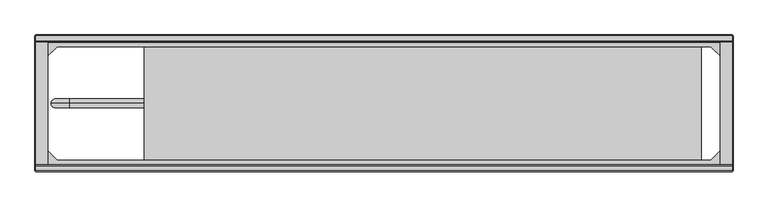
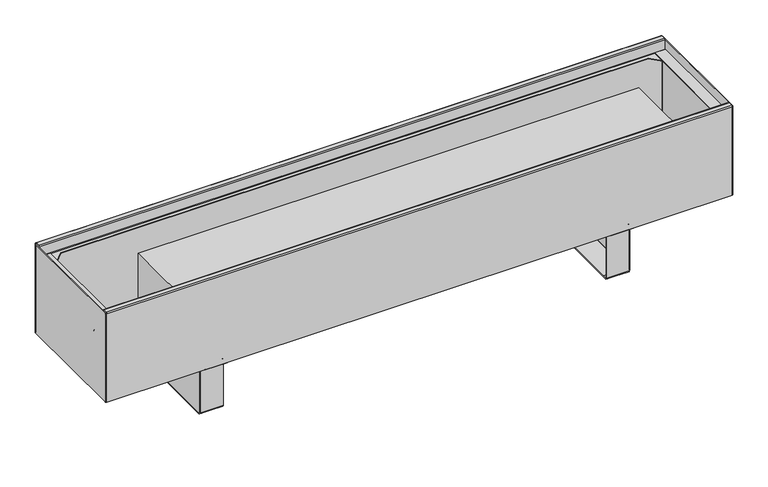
"""IFC4 building model written with IfcOpenShell, lengths in millimetres: proxy geometry, TECHNO_Конвектор напольный_Vita KPZ 235 : KPZ 235-180."""

from ifc_helpers import new_model, si_unit, point, frame, origin, place, context, project, spatial, polyline, circle_curve, ellipse_curve, trimmed, outline, extrude, source, transform, mapped, element, save
from ifc_brep_helpers import plane_surface, cylinder_surface, revolved_surface, advanced_brep


def mechanical_equipment_8d609455(model_context):
    return source(origin(), model_context, "Body", "SolidModel", [
        advanced_brep(
        [(409.7, -116.8, 1.5), (409.7, -114.5, 3.8), (409.7, -114.5, 4.9), (409.7, -116.0, 4.9), (409.7, -116.0, 3.8), (409.7, -116.8, 3.0), (409.7, -124.5, 3.0), (409.7, -124.5, 1.5), (409.7, -117.6, 1.5), (409.7, -114.5, 97.7), (409.7, -113.7, 98.5), (409.7, -101.0, 98.5), (409.7, -101.0, 100.0), (409.7, -113.7, 100.0), (409.7, -116.0, 97.7), (409.7, -116.0, 95.5), (409.7, -114.5, 95.5), (409.7, -320.5, 3.8), (409.7, -318.2, 1.5), (409.7, -317.4, 1.5), (409.7, -310.5, 1.5), (409.7, -310.5, 3.0), (409.7, -318.2, 3.0), (409.7, -319.0, 3.8), (409.7, -319.0, 4.9), (409.7, -320.5, 4.9), (409.7, -319.0, 97.7), (409.7, -321.3, 100.0), (409.7, -334.0, 100.0), (409.7, -334.0, 98.5), (409.7, -321.3, 98.5), (409.7, -320.5, 97.7), (409.7, -320.5, 95.5), (409.7, -319.0, 95.5), (367.0, -320.5, 97.7), (367.0, -321.3, 98.5), (367.0, -334.0, 98.5), (367.0, -334.0, 100.0), (367.0, -321.3, 100.0), (367.0, -319.0, 97.7), (367.0, -319.0, 3.8), (367.0, -318.2, 3.0), (367.0, -310.5, 3.0), (367.0, -310.5, 1.5), (367.0, -124.5, 1.5), (367.0, -124.5, 3.0), (367.0, -116.8, 3.0), (367.0, -116.0, 3.8), (367.0, -116.0, 97.7), (367.0, -113.7, 100.0), (367.0, -101.0, 100.0), (367.0, -101.0, 98.5), (367.0, -113.7, 98.5), (367.0, -114.5, 97.7), (367.0, -114.5, 3.8), (367.0, -116.8, 1.5), (367.0, -117.6, 1.5), (367.0, -117.6, 0.0), (367.0, -317.4, 0.0), (367.0, -317.4, 1.5), (367.0, -318.2, 1.5), (367.0, -320.5, 3.8), (410.5, -116.8, 95.5), (410.5, -318.2, 95.5), (412.0, -318.2, 95.5), (412.0, -116.8, 95.5), (412.0, -116.8, 4.9), (412.0, -117.6, 4.9), (410.5, -117.6, 4.9), (410.5, -116.8, 4.9), (410.5, -318.2, 4.9), (410.5, -317.4, 4.9), (412.0, -317.4, 4.9), (412.0, -318.2, 4.9), (410.5, -117.6, 2.3), (410.5, -317.4, 2.3), (411.9999999, -317.4, 2.3), (412.0, -117.6, 2.3), (409.7, -117.6, 0.0), (409.7, -317.4, 0.0)],
        [
            (0, 1, circle_curve(frame((409.7, -116.8, 3.8), z_axis=(1.0, 0.0, 0.0), x_axis=(0.0, -1.0, 0.0)), 2.3)),
            (1, 2),
            (2, 3),
            (3, 4),
            (4, 5, circle_curve(frame((409.7, -116.8, 3.8), z_axis=(-1.0, 0.0, 0.0), x_axis=(0.0, -1.0, 0.0)), 0.8)),
            (5, 6),
            (6, 7),
            (7, 8),
            (8, 0),
            (9, 10, circle_curve(frame((409.7, -113.7, 97.7), z_axis=(-1.0, 0.0, 0.0), x_axis=(0.0, -1.0, 0.0)), 0.8)),
            (10, 11),
            (11, 12),
            (12, 13),
            (13, 14, circle_curve(frame((409.7, -113.7, 97.7), z_axis=(1.0, 0.0, 0.0), x_axis=(0.0, -1.0, 0.0)), 2.3)),
            (14, 15),
            (15, 16),
            (16, 9),
            (17, 18, circle_curve(frame((409.7, -318.2, 3.8), z_axis=(1.0, 0.0, 0.0), x_axis=(0.0, -1.0, 0.0)), 2.3)),
            (18, 19),
            (19, 20),
            (20, 21),
            (21, 22),
            (22, 23, circle_curve(frame((409.7, -318.2, 3.8), z_axis=(-1.0, 0.0, 0.0), x_axis=(0.0, -1.0, 0.0)), 0.8)),
            (23, 24),
            (24, 25),
            (25, 17),
            (26, 27, circle_curve(frame((409.7, -321.3, 97.7), z_axis=(1.0, 0.0, 0.0), x_axis=(0.0, -1.0, 0.0)), 2.3)),
            (27, 28),
            (28, 29),
            (29, 30),
            (30, 31, circle_curve(frame((409.7, -321.3, 97.7), z_axis=(-1.0, 0.0, 0.0), x_axis=(0.0, -1.0, 0.0)), 0.8)),
            (31, 32),
            (32, 33),
            (33, 26),
            (34, 35, circle_curve(frame((367.0, -321.3, 97.7), z_axis=(1.0, 0.0, 0.0), x_axis=(0.0, -1.0, 0.0)), 0.8)),
            (35, 36),
            (36, 37),
            (37, 38),
            (38, 39, circle_curve(frame((367.0, -321.3, 97.7), z_axis=(-1.0, 0.0, 0.0), x_axis=(0.0, -1.0, 0.0)), 2.3)),
            (39, 40),
            (40, 41, circle_curve(frame((367.0, -318.2, 3.8), z_axis=(1.0, 0.0, 0.0), x_axis=(0.0, -1.0, 0.0)), 0.8)),
            (41, 42),
            (42, 43),
            (43, 44),
            (44, 45),
            (45, 46),
            (46, 47, circle_curve(frame((367.0, -116.8, 3.8), z_axis=(1.0, 0.0, 0.0), x_axis=(0.0, -1.0, 0.0)), 0.8)),
            (47, 48),
            (48, 49, circle_curve(frame((367.0, -113.7, 97.7), z_axis=(-1.0, 0.0, 0.0), x_axis=(0.0, -1.0, 0.0)), 2.3)),
            (49, 50),
            (50, 51),
            (51, 52),
            (52, 53, circle_curve(frame((367.0, -113.7, 97.7), z_axis=(1.0, 0.0, 0.0), x_axis=(0.0, -1.0, 0.0)), 0.8)),
            (53, 54),
            (54, 55, circle_curve(frame((367.0, -116.8, 3.8), z_axis=(-1.0, 0.0, 0.0), x_axis=(0.0, -1.0, 0.0)), 2.3)),
            (55, 56),
            (56, 57),
            (57, 58),
            (58, 59),
            (59, 60),
            (60, 61, circle_curve(frame((367.0, -318.2, 3.8), z_axis=(-1.0, 0.0, 0.0), x_axis=(0.0, -1.0, 0.0)), 2.3)),
            (61, 34),
            (30, 35),
            (34, 31),
            (29, 36),
            (28, 37),
            (27, 38),
            (26, 39),
            (33, 24),
            (23, 40),
            (22, 41),
            (5, 46),
            (45, 6),
            (4, 47),
            (3, 15),
            (14, 48),
            (13, 49),
            (12, 50),
            (11, 51),
            (10, 52),
            (9, 53),
            (16, 2),
            (1, 54),
            (0, 55),
            (8, 56),
            (17, 61),
            (60, 18),
            (25, 32),
            (21, 42),
            (20, 43),
            (59, 19),
            (44, 7),
            (15, 62, circle_curve(frame((409.7, -116.8, 95.5), z_axis=(0.0, 0.0, -1.0), x_axis=(-1.0, 0.0, 0.0)), 0.8)),
            (62, 63),
            (63, 33, circle_curve(frame((409.7, -318.2, 95.5), z_axis=(0.0, 0.0, -1.0), x_axis=(-1.0, 0.0, 0.0)), 0.8)),
            (32, 64, circle_curve(frame((409.7, -318.2, 95.5), z_axis=(0.0, 0.0, 1.0), x_axis=(-1.0, 0.0, 0.0)), 2.3)),
            (64, 65),
            (65, 16, circle_curve(frame((409.7, -116.8, 95.5), z_axis=(0.0, 0.0, 1.0), x_axis=(-1.0, 0.0, 0.0)), 2.3)),
            (2, 66, circle_curve(frame((409.7, -116.8, 4.9), z_axis=(0.0, 0.0, -1.0), x_axis=(-1.0, 0.0, 0.0)), 2.3)),
            (66, 67),
            (67, 68),
            (68, 69),
            (69, 3, circle_curve(frame((409.7, -116.8, 4.9), z_axis=(0.0, 0.0, 1.0), x_axis=(-1.0, 0.0, 0.0)), 0.8)),
            (24, 70, circle_curve(frame((409.7, -318.2, 4.9), z_axis=(0.0, 0.0, 1.0), x_axis=(-1.0, 0.0, 0.0)), 0.8)),
            (70, 71),
            (71, 72),
            (72, 73),
            (73, 25, circle_curve(frame((409.7, -318.2, 4.9), z_axis=(0.0, 0.0, -1.0), x_axis=(-1.0, 0.0, 0.0)), 2.3)),
            (69, 62),
            (68, 74),
            (74, 75),
            (75, 71),
            (70, 63),
            (64, 73),
            (72, 76),
            (76, 77),
            (77, 67),
            (66, 65),
            (8, 74, circle_curve(frame((409.7, -117.6, 2.3), z_axis=(0.0, -1.0, 0.0), x_axis=(-1.0, 0.0, 0.0)), 0.8)),
            (77, 78, circle_curve(frame((409.7, -117.6, 2.3), z_axis=(0.0, 1.0, 0.0), x_axis=(-1.0, 0.0, 0.0)), 2.3)),
            (78, 57),
            (58, 79),
            (79, 76, circle_curve(frame((409.7, -317.4, 2.3), z_axis=(0.0, -1.0, 0.0), x_axis=(-1.0, 0.0, 0.0)), 2.3)),
            (75, 19, circle_curve(frame((409.7, -317.4, 2.3), z_axis=(0.0, 1.0, 0.0), x_axis=(-1.0, 0.0, 0.0)), 0.8)),
            (20, 7),
            (79, 78),
        ],
        [
            plane_surface(frame((409.7, -322.1, 97.7), z_axis=(1.0, 0.0, 0.0), x_axis=(0.0, 0.0, 1.0))),
            plane_surface(frame((367.0, -322.1, 97.7), z_axis=(-1.0, 0.0, 0.0), x_axis=(0.0, 0.0, -1.0))),
            revolved_surface(polyline([(409.7, -322.1, 97.7), (367.0, -322.1, 97.7)]), (409.7, -321.3, 97.7), (1.0, 0.0, 0.0)),
            plane_surface(frame((367.0, -321.3, 98.5), z_axis=(0.0, 0.0, -1.0), x_axis=(1.0, 0.0, 0.0))),
            plane_surface(frame((367.0, -334.0, 98.5), z_axis=(0.0, -1.0, 0.0), x_axis=(1.0, 0.0, 0.0))),
            plane_surface(frame((367.0, -334.0, 100.0), z_axis=(0.0, 0.0, 1.0), x_axis=(1.0, 0.0, 0.0))),
            cylinder_surface(frame((409.7, -321.3, 97.7), z_axis=(-1.0, 0.0, 0.0), x_axis=(0.0, -1.0, 0.0)), 2.3),
            plane_surface(frame((367.0, -319.0, 97.7), z_axis=(0.0, 1.0, 3.691903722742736e-12), x_axis=(1.0, 0.0, 0.0))),
            revolved_surface(polyline([(409.7, -319.0, 3.8), (367.0, -319.0, 3.8)]), (409.7, -318.2, 3.8), (1.0, 0.0, 0.0)),
            plane_surface(frame((367.0, -124.5, 3.0), z_axis=(0.0, 0.0, 1.0), x_axis=(1.0, 0.0, 0.0))),
            revolved_surface(polyline([(409.7, -117.6, 3.8), (367.0, -117.6, 3.8)]), (412.0, -116.8, 3.8), (1.0, 0.0, 0.0)),
            plane_surface(frame((367.0, -116.0, 3.8), z_axis=(0.0, -1.0, 0.0), x_axis=(1.0, 0.0, 0.0))),
            cylinder_surface(frame((412.0, -113.7, 97.7), z_axis=(-1.0, 0.0, 0.0), x_axis=(0.0, -1.0, 0.0)), 2.3),
            plane_surface(frame((367.0, -113.7, 100.0), z_axis=(0.0, 0.0, 1.0), x_axis=(1.0, 0.0, 0.0))),
            plane_surface(frame((367.0, -101.0, 100.0), z_axis=(0.0, 1.0, 0.0), x_axis=(1.0, 0.0, 0.0))),
            plane_surface(frame((367.0, -101.0, 98.5), z_axis=(0.0, 0.0, -1.0), x_axis=(1.0, 0.0, 0.0))),
            revolved_surface(polyline([(409.7, -114.5, 97.7), (367.0, -114.5, 97.7)]), (412.0, -113.7, 97.7), (1.0, 0.0, 0.0)),
            plane_surface(frame((367.0, -114.5, 97.7), z_axis=(0.0, 1.0, 0.0), x_axis=(1.0, 0.0, 0.0))),
            cylinder_surface(frame((412.0, -116.8, 3.8), z_axis=(-1.0, 0.0, 0.0), x_axis=(0.0, -1.0, 0.0)), 2.3),
            plane_surface(frame((367.0, -116.8, 1.5), z_axis=(0.0, 0.0, -1.0), x_axis=(1.0, 0.0, 0.0))),
            cylinder_surface(frame((409.7, -318.2, 3.8), z_axis=(-1.0, 0.0, 0.0), x_axis=(0.0, -1.0, 0.0)), 2.3),
            plane_surface(frame((367.0, -320.5, 3.8), z_axis=(0.0, -1.0, 0.0), x_axis=(1.0, 0.0, 0.0))),
            plane_surface(frame((367.0, -318.2, 3.0), z_axis=(0.0, 0.0, 1.0), x_axis=(1.0, 0.0, 0.0))),
            plane_surface(frame((367.0, -310.5, 3.0), z_axis=(0.0, 1.0, 0.0), x_axis=(1.0, 0.0, 0.0))),
            plane_surface(frame((367.0, -310.5, 1.5), z_axis=(0.0, 0.0, -1.0), x_axis=(1.0, 0.0, 0.0))),
            plane_surface(frame((367.0, -124.5, 1.5), z_axis=(0.0, -1.0, 0.0), x_axis=(1.0, 0.0, 0.0))),
            plane_surface(frame((409.7, -116.0, 95.5), z_axis=(0.0, 0.0, 1.0), x_axis=(0.0, -1.0, 0.0))),
            plane_surface(frame((409.7, -116.0, 4.9), z_axis=(0.0, 0.0, -1.0), x_axis=(0.0, 1.0, 0.0))),
            revolved_surface(polyline([(408.9, -116.8, 4.9), (408.9, -116.8, 95.5)]), (409.7, -116.8, 4.9), (0.0, 0.0, -1.0)),
            plane_surface(frame((410.5, -116.8, 95.5), z_axis=(-1.0, 0.0, 0.0), x_axis=(0.0, 0.0, -1.0))),
            plane_surface(frame((412.0, -117.6, 95.5), z_axis=(1.0, -4.3226800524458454e-10, 0.0), x_axis=(0.0, 0.0, -1.0))),
            cylinder_surface(frame((409.7, -116.8, 4.9), z_axis=(0.0, 0.0, 1.0), x_axis=(-1.0, 0.0, 0.0)), 2.3),
            cylinder_surface(frame((409.7, -318.2, 0.0), z_axis=(0.0, 0.0, 1.0), x_axis=(-1.0, 0.0, 0.0)), 2.3),
            revolved_surface(polyline([(408.9, -318.2, 4.9), (408.9, -318.2, 95.5)]), (409.7, -318.2, 0.0), (0.0, 0.0, -1.0)),
            plane_surface(frame((367.0, -117.6, 1.5), z_axis=(0.0, 1.0, 0.0), x_axis=(0.0, 0.0, 1.0))),
            plane_surface(frame((367.0, -317.4, 1.5), z_axis=(0.0, -1.0, 0.0), x_axis=(0.0, 0.0, -1.0))),
            plane_surface(frame((367.0, -117.6, 1.5), z_axis=(0.0, 0.0, 1.0), x_axis=(0.0, -1.0, 0.0))),
            revolved_surface(polyline([(408.9, -317.4, 2.3), (408.9, -117.6, 2.3)]), (409.7, -317.4, 2.3), (0.0, -1.0, 0.0)),
            cylinder_surface(frame((409.7, -317.4, 2.3), z_axis=(0.0, 1.0, 0.0), x_axis=(-1.0, 0.0, 0.0)), 2.3),
            plane_surface(frame((409.7, -117.6, 0.0), z_axis=(0.0, 0.0, -1.0), x_axis=(0.0, -1.0, 0.0))),
        ],
        [
            (0, [[1, 2, 3, 4, 5, 6, 7, 8, 9]]),
            (0, [[10, 11, 12, 13, 14, 15, 16, 17]]),
            (0, [[18, 19, 20, 21, 22, 23, 24, 25, 26]]),
            (0, [[27, 28, 29, 30, 31, 32, 33, 34]]),
            (1, [[35, 36, 37, 38, 39, 40, 41, 42, 43, 44, 45, 46, 47, 48, 49, 50, 51, 52, 53, 54, 55, 56, 57, 58, 59, 60, 61, 62]]),
            (2, [[-31, 63, -35, 64]]),
            (3, [[-30, 65, -36, -63]]),
            (4, [[-29, 66, -37, -65]]),
            (5, [[-28, 67, -38, -66]]),
            (6, [[-27, 68, -39, -67]]),
            (7, [[-40, -68, -34, 69, -24, 70]]),
            (8, [[-23, 71, -41, -70]]),
            (9, [[-6, 72, -46, 73]]),
            (10, [[-5, 74, -47, -72]]),
            (11, [[-48, -74, -4, 75, -15, 76]]),
            (12, [[-14, 77, -49, -76]]),
            (13, [[-13, 78, -50, -77]]),
            (14, [[-12, 79, -51, -78]]),
            (15, [[-11, 80, -52, -79]]),
            (16, [[-10, 81, -53, -80]]),
            (17, [[-54, -81, -17, 82, -2, 83]]),
            (18, [[-1, 84, -55, -83]]),
            (19, [[-84, -9, 85, -56]]),
            (20, [[-18, 86, -61, 87]]),
            (21, [[-62, -86, -26, 88, -32, -64]]),
            (22, [[-22, 89, -42, -71]]),
            (23, [[-21, 90, -43, -89]]),
            (24, [[-87, -60, 91, -19]]),
            (25, [[-7, -73, -45, 92]]),
            (26, [[93, 94, 95, -33, 96, 97, 98, -16]]),
            (27, [[99, 100, 101, 102, 103, -3]]),
            (27, [[104, 105, 106, 107, 108, -25]]),
            (28, [[-93, -75, -103, 109]]),
            (29, [[-94, -109, -102, 110, 111, 112, -105, 113]]),
            (30, [[-97, 114, -107, 115, 116, 117, -100, 118]]),
            (31, [[-98, -118, -99, -82]]),
            (32, [[-96, -88, -108, -114]]),
            (33, [[-95, -113, -104, -69]]),
            (34, [[-57, -85, 119, -110, -101, -117, 120, 121]]),
            (35, [[122, 123, -115, -106, -112, 124, -91, -59]]),
            (36, [[125, -92, -44, -90]]),
            (37, [[-119, -8, -125, -20, -124, -111]]),
            (38, [[-120, -116, -123, 126]]),
            (39, [[-121, -126, -122, -58]]),
        ],
    ),
        advanced_brep(
        [(-409.7, -318.2, 1.5), (-409.7, -320.5, 3.8), (-409.7, -320.5, 4.9), (-409.7, -319.0, 4.9), (-409.7, -319.0, 3.8), (-409.7, -318.2, 3.0), (-409.7, -310.5, 3.0), (-409.7, -310.5, 1.5), (-409.7, -317.4, 1.5), (-409.7, -320.5, 97.7), (-409.7, -321.3, 98.5), (-409.7, -334.0, 98.5), (-409.7, -334.0, 100.0), (-409.7, -321.3, 100.0), (-409.7, -319.0, 97.7), (-409.7, -319.0, 95.5), (-409.7, -320.5, 95.5), (-409.7, -114.5, 3.8), (-409.7, -116.8, 1.5), (-409.7, -117.6, 1.5), (-409.7, -124.5, 1.5), (-409.7, -124.5, 3.0), (-409.7, -116.8, 3.0), (-409.7, -116.0, 3.8), (-409.7, -116.0, 4.9), (-409.7, -114.5, 4.9), (-409.7, -116.0, 97.7), (-409.7, -113.7, 100.0), (-409.7, -101.0, 100.0), (-409.7, -101.0, 98.5), (-409.7, -113.7, 98.5), (-409.7, -114.5, 97.7), (-409.7, -114.5, 95.5), (-409.7, -116.0, 95.5), (-367.0, -114.5, 97.7), (-367.0, -113.7, 98.5), (-367.0, -101.0, 98.5), (-367.0, -101.0, 100.0), (-367.0, -113.7, 100.0), (-367.0, -116.0, 97.7), (-367.0, -116.0, 3.8), (-367.0, -116.8, 3.0), (-367.0, -124.5, 3.0), (-367.0, -124.5, 1.5), (-367.0, -310.5, 1.5), (-367.0, -310.5, 3.0), (-367.0, -318.2, 3.0), (-367.0, -319.0, 3.8), (-367.0, -319.0, 97.7), (-367.0, -321.3, 100.0), (-367.0, -334.0, 100.0), (-367.0, -334.0, 98.5), (-367.0, -321.3, 98.5), (-367.0, -320.5, 97.7), (-367.0, -320.5, 3.8), (-367.0, -318.2, 1.5), (-367.0, -317.4, 1.5), (-367.0, -317.4, 0.0), (-367.0, -117.6, 0.0), (-367.0, -117.6, 1.5), (-367.0, -116.8, 1.5), (-367.0, -114.5, 3.8), (-410.5, -318.2, 95.5), (-410.5, -116.8, 95.5), (-412.0, -116.8, 95.5), (-412.0, -318.2, 95.5), (-412.0, -318.2, 4.9), (-412.0, -317.4, 4.9), (-410.5, -317.4, 4.9), (-410.5, -318.2, 4.9), (-410.5, -116.8, 4.9), (-410.5, -117.6, 4.9), (-412.0, -117.6, 4.9), (-412.0, -116.8, 4.9), (-410.5, -317.4, 2.3), (-410.5, -117.6, 2.3), (-411.9999999, -117.6, 2.3), (-412.0, -317.4, 2.3), (-409.7, -317.4, 0.0), (-409.7, -117.6, 0.0)],
        [
            (0, 1, circle_curve(frame((-409.7, -318.2, 3.8), z_axis=(-1.0, 0.0, 0.0), x_axis=(0.0, 1.0, 0.0)), 2.3)),
            (1, 2),
            (2, 3),
            (3, 4),
            (4, 5, circle_curve(frame((-409.7, -318.2, 3.8), z_axis=(1.0, 0.0, 0.0), x_axis=(0.0, 1.0, 0.0)), 0.8)),
            (5, 6),
            (6, 7),
            (7, 8),
            (8, 0),
            (9, 10, circle_curve(frame((-409.7, -321.3, 97.7), z_axis=(1.0, 0.0, 0.0), x_axis=(0.0, 1.0, 0.0)), 0.8)),
            (10, 11),
            (11, 12),
            (12, 13),
            (13, 14, circle_curve(frame((-409.7, -321.3, 97.7), z_axis=(-1.0, 0.0, 0.0), x_axis=(0.0, 1.0, 0.0)), 2.3)),
            (14, 15),
            (15, 16),
            (16, 9),
            (17, 18, circle_curve(frame((-409.7, -116.8, 3.8), z_axis=(-1.0, 0.0, 0.0), x_axis=(0.0, 1.0, 0.0)), 2.3)),
            (18, 19),
            (19, 20),
            (20, 21),
            (21, 22),
            (22, 23, circle_curve(frame((-409.7, -116.8, 3.8), z_axis=(1.0, 0.0, 0.0), x_axis=(0.0, 1.0, 0.0)), 0.8)),
            (23, 24),
            (24, 25),
            (25, 17),
            (26, 27, circle_curve(frame((-409.7, -113.7, 97.7), z_axis=(-1.0, 0.0, 0.0), x_axis=(0.0, 1.0, 0.0)), 2.3)),
            (27, 28),
            (28, 29),
            (29, 30),
            (30, 31, circle_curve(frame((-409.7, -113.7, 97.7), z_axis=(1.0, 0.0, 0.0), x_axis=(0.0, 1.0, 0.0)), 0.8)),
            (31, 32),
            (32, 33),
            (33, 26),
            (34, 35, circle_curve(frame((-367.0, -113.7, 97.7), z_axis=(-1.0, 0.0, 0.0), x_axis=(0.0, 1.0, 0.0)), 0.8)),
            (35, 36),
            (36, 37),
            (37, 38),
            (38, 39, circle_curve(frame((-367.0, -113.7, 97.7), z_axis=(1.0, 0.0, 0.0), x_axis=(0.0, 1.0, 0.0)), 2.3)),
            (39, 40),
            (40, 41, circle_curve(frame((-367.0, -116.8, 3.8), z_axis=(-1.0, 0.0, 0.0), x_axis=(0.0, 1.0, 0.0)), 0.8)),
            (41, 42),
            (42, 43),
            (43, 44),
            (44, 45),
            (45, 46),
            (46, 47, circle_curve(frame((-367.0, -318.2, 3.8), z_axis=(-1.0, 0.0, 0.0), x_axis=(0.0, 1.0, 0.0)), 0.8)),
            (47, 48),
            (48, 49, circle_curve(frame((-367.0, -321.3, 97.7), z_axis=(1.0, 0.0, 0.0), x_axis=(0.0, 1.0, 0.0)), 2.3)),
            (49, 50),
            (50, 51),
            (51, 52),
            (52, 53, circle_curve(frame((-367.0, -321.3, 97.7), z_axis=(-1.0, 0.0, 0.0), x_axis=(0.0, 1.0, 0.0)), 0.8)),
            (53, 54),
            (54, 55, circle_curve(frame((-367.0, -318.2, 3.8), z_axis=(1.0, 0.0, 0.0), x_axis=(0.0, 1.0, 0.0)), 2.3)),
            (55, 56),
            (56, 57),
            (57, 58),
            (58, 59),
            (59, 60),
            (60, 61, circle_curve(frame((-367.0, -116.8, 3.8), z_axis=(1.0, 0.0, 0.0), x_axis=(0.0, 1.0, 0.0)), 2.3)),
            (61, 34),
            (30, 35),
            (34, 31),
            (29, 36),
            (28, 37),
            (27, 38),
            (26, 39),
            (33, 24),
            (23, 40),
            (22, 41),
            (5, 46),
            (45, 6),
            (4, 47),
            (3, 15),
            (14, 48),
            (13, 49),
            (12, 50),
            (11, 51),
            (10, 52),
            (9, 53),
            (16, 2),
            (1, 54),
            (0, 55),
            (8, 56),
            (17, 61),
            (60, 18),
            (25, 32),
            (21, 42),
            (20, 43),
            (59, 19),
            (44, 7),
            (15, 62, circle_curve(frame((-409.7, -318.2, 95.5), z_axis=(0.0, 0.0, -1.0), x_axis=(1.0, 0.0, 0.0)), 0.8)),
            (62, 63),
            (63, 33, circle_curve(frame((-409.7, -116.8, 95.5), z_axis=(0.0, 0.0, -1.0), x_axis=(1.0, 0.0, 0.0)), 0.8)),
            (32, 64, circle_curve(frame((-409.7, -116.8, 95.5), z_axis=(0.0, 0.0, 1.0), x_axis=(1.0, 0.0, 0.0)), 2.3)),
            (64, 65),
            (65, 16, circle_curve(frame((-409.7, -318.2, 95.5), z_axis=(0.0, 0.0, 1.0), x_axis=(1.0, 0.0, 0.0)), 2.3)),
            (2, 66, circle_curve(frame((-409.7, -318.2, 4.9), z_axis=(0.0, 0.0, -1.0), x_axis=(1.0, 0.0, 0.0)), 2.3)),
            (66, 67),
            (67, 68),
            (68, 69),
            (69, 3, circle_curve(frame((-409.7, -318.2, 4.9), z_axis=(0.0, 0.0, 1.0), x_axis=(1.0, 0.0, 0.0)), 0.8)),
            (24, 70, circle_curve(frame((-409.7, -116.8, 4.9), z_axis=(0.0, 0.0, 1.0), x_axis=(1.0, 0.0, 0.0)), 0.8)),
            (70, 71),
            (71, 72),
            (72, 73),
            (73, 25, circle_curve(frame((-409.7, -116.8, 4.9), z_axis=(0.0, 0.0, -1.0), x_axis=(1.0, 0.0, 0.0)), 2.3)),
            (69, 62),
            (68, 74),
            (74, 75),
            (75, 71),
            (70, 63),
            (64, 73),
            (72, 76),
            (76, 77),
            (77, 67),
            (66, 65),
            (8, 74, circle_curve(frame((-409.7, -317.4, 2.3), z_axis=(0.0, 1.0, 0.0), x_axis=(1.0, 0.0, 0.0)), 0.8)),
            (77, 78, circle_curve(frame((-409.7, -317.4, 2.3), z_axis=(0.0, -1.0, 0.0), x_axis=(1.0, 0.0, 0.0)), 2.3)),
            (78, 57),
            (58, 79),
            (79, 76, circle_curve(frame((-409.7, -117.6, 2.3), z_axis=(0.0, 1.0, 0.0), x_axis=(1.0, 0.0, 0.0)), 2.3)),
            (75, 19, circle_curve(frame((-409.7, -117.6, 2.3), z_axis=(0.0, -1.0, 0.0), x_axis=(1.0, 0.0, 0.0)), 0.8)),
            (20, 7),
            (79, 78),
        ],
        [
            plane_surface(frame((-409.7, -112.9, 97.7), z_axis=(-1.0, 0.0, 0.0), x_axis=(0.0, 0.0, 1.0))),
            plane_surface(frame((-367.0, -112.9, 97.7), z_axis=(1.0, 0.0, 0.0), x_axis=(0.0, 0.0, -1.0))),
            revolved_surface(polyline([(-409.7, -112.9, 97.7), (-367.0, -112.9, 97.7)]), (-409.7, -113.7, 97.7), (-1.0, 0.0, 0.0)),
            plane_surface(frame((-367.0, -113.7, 98.5), z_axis=(0.0, 0.0, -1.0), x_axis=(-1.0, 0.0, 0.0))),
            plane_surface(frame((-367.0, -101.0, 98.5), z_axis=(0.0, 1.0, 0.0), x_axis=(-1.0, 0.0, 0.0))),
            plane_surface(frame((-367.0, -101.0, 100.0), z_axis=(0.0, 0.0, 1.0), x_axis=(-1.0, 0.0, 0.0))),
            cylinder_surface(frame((-409.7, -113.7, 97.7), z_axis=(1.0, 0.0, 0.0), x_axis=(0.0, 1.0, 0.0)), 2.3),
            plane_surface(frame((-367.0, -116.0, 97.7), z_axis=(0.0, -1.0, 3.691903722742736e-12), x_axis=(-1.0, 0.0, 0.0))),
            revolved_surface(polyline([(-409.7, -116.0, 3.8), (-367.0, -116.0, 3.8)]), (-409.7, -116.8, 3.8), (-1.0, 0.0, 0.0)),
            plane_surface(frame((-367.0, -310.5, 3.0), z_axis=(0.0, 0.0, 1.0), x_axis=(-1.0, 0.0, 0.0))),
            revolved_surface(polyline([(-409.7, -317.4, 3.8), (-367.0, -317.4, 3.8)]), (-412.0, -318.2, 3.8), (-1.0, 0.0, 0.0)),
            plane_surface(frame((-367.0, -319.0, 3.8), z_axis=(0.0, 1.0, 0.0), x_axis=(-1.0, 0.0, 0.0))),
            cylinder_surface(frame((-412.0, -321.3, 97.7), z_axis=(1.0, 0.0, 0.0), x_axis=(0.0, 1.0, 0.0)), 2.3),
            plane_surface(frame((-367.0, -321.3, 100.0), z_axis=(0.0, 0.0, 1.0), x_axis=(-1.0, 0.0, 0.0))),
            plane_surface(frame((-367.0, -334.0, 100.0), z_axis=(0.0, -1.0, 0.0), x_axis=(-1.0, 0.0, 0.0))),
            plane_surface(frame((-367.0, -334.0, 98.5), z_axis=(0.0, 0.0, -1.0), x_axis=(-1.0, 0.0, 0.0))),
            revolved_surface(polyline([(-409.7, -320.5, 97.7), (-367.0, -320.5, 97.7)]), (-412.0, -321.3, 97.7), (-1.0, 0.0, 0.0)),
            plane_surface(frame((-367.0, -320.5, 97.7), z_axis=(0.0, -1.0, 0.0), x_axis=(-1.0, 0.0, 0.0))),
            cylinder_surface(frame((-412.0, -318.2, 3.8), z_axis=(1.0, 0.0, 0.0), x_axis=(0.0, 1.0, 0.0)), 2.3),
            plane_surface(frame((-367.0, -318.2, 1.5), z_axis=(0.0, 0.0, -1.0), x_axis=(-1.0, 0.0, 0.0))),
            cylinder_surface(frame((-409.7, -116.8, 3.8), z_axis=(1.0, 0.0, 0.0), x_axis=(0.0, 1.0, 0.0)), 2.3),
            plane_surface(frame((-367.0, -114.5, 3.8), z_axis=(0.0, 1.0, 0.0), x_axis=(-1.0, 0.0, 0.0))),
            plane_surface(frame((-367.0, -116.8, 3.0), z_axis=(0.0, 0.0, 1.0), x_axis=(-1.0, 0.0, 0.0))),
            plane_surface(frame((-367.0, -124.5, 3.0), z_axis=(0.0, -1.0, 0.0), x_axis=(-1.0, 0.0, 0.0))),
            plane_surface(frame((-367.0, -124.5, 1.5), z_axis=(0.0, 0.0, -1.0), x_axis=(-1.0, 0.0, 0.0))),
            plane_surface(frame((-367.0, -310.5, 1.5), z_axis=(0.0, 1.0, 0.0), x_axis=(-1.0, 0.0, 0.0))),
            plane_surface(frame((-409.7, -319.0, 95.5), z_axis=(0.0, 0.0, 1.0), x_axis=(0.0, 1.0, 0.0))),
            plane_surface(frame((-409.7, -319.0, 4.9), z_axis=(0.0, 0.0, -1.0), x_axis=(0.0, -1.0, 0.0))),
            revolved_surface(polyline([(-408.9, -318.2, 4.9), (-408.9, -318.2, 95.5)]), (-409.7, -318.2, 4.9), (0.0, 0.0, -1.0)),
            plane_surface(frame((-410.5, -318.2, 95.5), z_axis=(1.0, 0.0, 0.0), x_axis=(0.0, 0.0, -1.0))),
            plane_surface(frame((-412.0, -317.4, 95.5), z_axis=(-1.0, 4.3226484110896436e-10, 0.0), x_axis=(0.0, 0.0, -1.0))),
            cylinder_surface(frame((-409.7, -318.2, 4.9), z_axis=(0.0, 0.0, 1.0), x_axis=(1.0, 0.0, 0.0)), 2.3),
            cylinder_surface(frame((-409.7, -116.8, 0.0), z_axis=(0.0, 0.0, 1.0), x_axis=(1.0, 0.0, 0.0)), 2.3),
            revolved_surface(polyline([(-408.9, -116.8, 4.9), (-408.9, -116.8, 95.5)]), (-409.7, -116.8, 0.0), (0.0, 0.0, -1.0)),
            plane_surface(frame((-367.0, -317.4, 1.5), z_axis=(0.0, -1.0, 0.0), x_axis=(0.0, 0.0, 1.0))),
            plane_surface(frame((-367.0, -117.6, 1.5), z_axis=(0.0, 1.0, 0.0), x_axis=(0.0, 0.0, -1.0))),
            plane_surface(frame((-367.0, -317.4, 1.5), z_axis=(0.0, 0.0, 1.0), x_axis=(0.0, 1.0, 0.0))),
            revolved_surface(polyline([(-408.9, -117.6, 2.3), (-408.9, -317.4, 2.3)]), (-409.7, -117.6, 2.3), (0.0, 1.0, 0.0)),
            cylinder_surface(frame((-409.7, -117.6, 2.3), z_axis=(0.0, -1.0, 0.0), x_axis=(1.0, 0.0, 0.0)), 2.3),
            plane_surface(frame((-409.7, -317.4, 0.0), z_axis=(0.0, 0.0, -1.0), x_axis=(0.0, 1.0, 0.0))),
        ],
        [
            (0, [[1, 2, 3, 4, 5, 6, 7, 8, 9]]),
            (0, [[10, 11, 12, 13, 14, 15, 16, 17]]),
            (0, [[18, 19, 20, 21, 22, 23, 24, 25, 26]]),
            (0, [[27, 28, 29, 30, 31, 32, 33, 34]]),
            (1, [[35, 36, 37, 38, 39, 40, 41, 42, 43, 44, 45, 46, 47, 48, 49, 50, 51, 52, 53, 54, 55, 56, 57, 58, 59, 60, 61, 62]]),
            (2, [[-31, 63, -35, 64]]),
            (3, [[-30, 65, -36, -63]]),
            (4, [[-29, 66, -37, -65]]),
            (5, [[-28, 67, -38, -66]]),
            (6, [[-27, 68, -39, -67]]),
            (7, [[-40, -68, -34, 69, -24, 70]]),
            (8, [[-23, 71, -41, -70]]),
            (9, [[-6, 72, -46, 73]]),
            (10, [[-5, 74, -47, -72]]),
            (11, [[-48, -74, -4, 75, -15, 76]]),
            (12, [[-14, 77, -49, -76]]),
            (13, [[-13, 78, -50, -77]]),
            (14, [[-12, 79, -51, -78]]),
            (15, [[-11, 80, -52, -79]]),
            (16, [[-10, 81, -53, -80]]),
            (17, [[-54, -81, -17, 82, -2, 83]]),
            (18, [[-1, 84, -55, -83]]),
            (19, [[-84, -9, 85, -56]]),
            (20, [[-18, 86, -61, 87]]),
            (21, [[-62, -86, -26, 88, -32, -64]]),
            (22, [[-22, 89, -42, -71]]),
            (23, [[-21, 90, -43, -89]]),
            (24, [[-87, -60, 91, -19]]),
            (25, [[-7, -73, -45, 92]]),
            (26, [[93, 94, 95, -33, 96, 97, 98, -16]]),
            (27, [[99, 100, 101, 102, 103, -3]]),
            (27, [[104, 105, 106, 107, 108, -25]]),
            (28, [[-93, -75, -103, 109]]),
            (29, [[-94, -109, -102, 110, 111, 112, -105, 113]]),
            (30, [[-97, 114, -107, 115, 116, 117, -100, 118]]),
            (31, [[-98, -118, -99, -82]]),
            (32, [[-96, -88, -108, -114]]),
            (33, [[-95, -113, -104, -69]]),
            (34, [[-57, -85, 119, -110, -101, -117, 120, 121]]),
            (35, [[122, 123, -115, -106, -112, 124, -91, -59]]),
            (36, [[125, -92, -44, -90]]),
            (37, [[-119, -8, -125, -20, -124, -111]]),
            (38, [[-120, -116, -123, 126]]),
            (39, [[-121, -126, -122, -58]]),
        ],
    ),
        advanced_brep(
        [(-412.0, -217.5, 186.5), (-412.0, -217.5, 171.5), (-540.0, -217.5, 186.5), (-540.0, -217.5, 171.5), (-557.5, -217.5, 154.0), (-572.5, -217.5, 154.0), (-572.5, -217.5, 100.0), (-557.5, -217.5, 100.0)],
        [
            (0, 1, circle_curve(frame((-412.0, -217.5, 179.0), z_axis=(1.0, 0.0, 0.0), x_axis=(0.0, 0.0, -1.0)), 7.5)),
            (1, 0, circle_curve(frame((-412.0, -217.5, 179.0), z_axis=(1.0, 0.0, 0.0), x_axis=(0.0, 0.0, -1.0)), 7.5)),
            (0, 2),
            (2, 3, circle_curve(frame((-540.0, -217.5, 179.0), z_axis=(1.0, 0.0, 0.0), x_axis=(0.0, 0.0, -1.0)), 7.5)),
            (3, 1),
            (3, 2, circle_curve(frame((-540.0, -217.5, 179.0), z_axis=(1.0, 0.0, 0.0), x_axis=(0.0, 0.0, -1.0)), 7.5)),
            (4, 3, circle_curve(frame((-540.0, -217.5, 154.0), z_axis=(0.0, 1.0, 0.0), x_axis=(0.0, 0.0, 1.0)), 17.5)),
            (2, 5, circle_curve(frame((-540.0, -217.5, 154.0), z_axis=(0.0, -1.0, 0.0), x_axis=(0.0, 0.0, 1.0)), 32.5)),
            (5, 4, circle_curve(frame((-565.0, -217.5, 154.0), z_axis=(0.0, 0.0, 1.0), x_axis=(1.0, 0.0, 0.0)), 7.5)),
            (4, 5, circle_curve(frame((-565.0, -217.5, 154.0), z_axis=(0.0, 0.0, 1.0), x_axis=(1.0, 0.0, 0.0)), 7.5)),
            (6, 7, circle_curve(frame((-565.0, -217.5, 100.0), z_axis=(0.0, 0.0, -1.0), x_axis=(1.0, 0.0, 0.0)), 7.5)),
            (7, 6, circle_curve(frame((-565.0, -217.5, 100.0), z_axis=(0.0, 0.0, -1.0), x_axis=(1.0, 0.0, 0.0)), 7.5)),
            (5, 6),
            (7, 4),
        ],
        [
            plane_surface(frame((-412.0, -217.5, 179.0), z_axis=(1.0, 0.0, 0.0), x_axis=(0.0, -1.0, 0.0))),
            cylinder_surface(frame((-412.0, -217.5, 179.0), z_axis=(1.0, 0.0, 0.0), x_axis=(0.0, 0.0, -1.0)), 7.5),
            revolved_surface(trimmed(ellipse_curve(frame((-540.0, -217.5, 179.0), z_axis=(1.0, 0.0, 0.0), x_axis=(0.0, 0.0, -1.0)), 7.5, 7.5), [point((-540.0, -217.5, 186.5))], [point((-540.0, -217.5, 171.5))], True, "CARTESIAN"), (-540.0, -217.5, 154.0), (0.0, -1.0, 0.0)),
            revolved_surface(trimmed(ellipse_curve(frame((-540.0, -217.5, 179.0), z_axis=(1.0, 0.0, 0.0), x_axis=(0.0, 0.0, -1.0)), 7.5, 7.5), [point((-540.0, -217.5, 171.5))], [point((-540.0, -217.5, 186.5))], True, "CARTESIAN"), (-540.0, -217.5, 154.0), (0.0, -1.0, 0.0)),
            plane_surface(frame((-565.0, -217.5, 100.0), z_axis=(0.0, 0.0, -1.0), x_axis=(0.0, -1.0, 0.0))),
            cylinder_surface(frame((-565.0, -217.5, 154.0), z_axis=(0.0, 0.0, 1.0), x_axis=(1.0, 0.0, 0.0)), 7.5),
        ],
        [
            (0, [[1, 2]]),
            (1, [[-1, 3, 4, 5]]),
            (1, [[-2, -5, 6, -3]]),
            (2, [[7, -4, 8, 9]]),
            (3, [[-8, -6, -7, 10]]),
            (4, [[11, 12]]),
            (5, [[-9, 13, -12, 14]]),
            (5, [[-10, -14, -11, -13]]),
        ],
    ),
        advanced_brep(
        [(-412.0, -217.5, 136.5), (-412.0, -217.5, 121.5), (-522.5, -217.5, 136.5), (-507.5, -217.5, 121.5), (-522.5, -217.5, 100.0), (-507.5, -217.5, 100.0)],
        [
            (0, 1, circle_curve(frame((-412.0, -217.5, 129.0), z_axis=(1.0, 0.0, 0.0), x_axis=(0.0, 0.0, -1.0)), 7.5)),
            (1, 0, circle_curve(frame((-412.0, -217.5, 129.0), z_axis=(1.0, 0.0, 0.0), x_axis=(0.0, 0.0, -1.0)), 7.5)),
            (0, 2),
            (2, 3, ellipse_curve(frame((-515.0, -217.5, 129.0), z_axis=(0.7071067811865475, 0.0, 0.7071067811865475), x_axis=(0.7071067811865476, 0.0, -0.7071067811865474)), 10.6066017, 7.5)),
            (3, 1),
            (3, 2, ellipse_curve(frame((-515.0, -217.5, 129.0), z_axis=(0.7071067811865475, 0.0, 0.7071067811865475), x_axis=(0.7071067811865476, 0.0, -0.7071067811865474)), 10.6066017, 7.5)),
            (4, 5, circle_curve(frame((-515.0, -217.5, 100.0), z_axis=(0.0, 0.0, -1.0), x_axis=(1.0, 0.0, 0.0)), 7.5)),
            (5, 4, circle_curve(frame((-515.0, -217.5, 100.0), z_axis=(0.0, 0.0, -1.0), x_axis=(1.0, 0.0, 0.0)), 7.5)),
            (2, 4),
            (5, 3),
        ],
        [
            plane_surface(frame((-412.0, -217.5, 129.0), z_axis=(1.0, 0.0, 0.0), x_axis=(0.0, -1.0, 0.0))),
            cylinder_surface(frame((-412.0, -217.5, 129.0), z_axis=(1.0, 0.0, 0.0), x_axis=(0.0, 0.0, -1.0)), 7.5),
            plane_surface(frame((-515.0, -217.5, 100.0), z_axis=(0.0, 0.0, -1.0), x_axis=(0.0, -1.0, 0.0))),
            cylinder_surface(frame((-515.0, -217.5, 129.0), z_axis=(0.0, 0.0, 1.0), x_axis=(1.0, 0.0, 0.0)), 7.5),
        ],
        [
            (0, [[1, 2]]),
            (1, [[-1, 3, 4, 5]]),
            (1, [[-2, -5, 6, -3]]),
            (2, [[7, 8]]),
            (3, [[-4, 9, -8, 10]]),
            (3, [[-6, -10, -7, -9]]),
        ],
    ),
        extrude(outline(polyline([(545.5, -117.5), (545.5, -317.5), (-412.0, -317.5), (-412.0, -117.5), (545.5, -117.5)])), frame((0.0, 0.0, 103.87), z_axis=(0.0, 0.0, 1.0), x_axis=(1.0, 0.0, 0.0)), (0.0, 0.0, 1.0), 100.0),
        extrude(outline(polyline([(-585.5004, -102.0), (-585.5004, -333.0), (-599.0, -333.0), (-599.0, -102.0), (-585.5004, -102.0)])), frame((0.0, 0.0, 101.83), z_axis=(0.0, 0.0, 1.0), x_axis=(1.0, 0.0, 0.0)), (0.0, 0.0, 1.0), 1.0002),
        extrude(outline(polyline([(585.5004, -102.0), (599.0, -102.0), (599.0, -333.0), (585.5004, -333.0), (585.5004, -102.0)])), frame((0.0, 0.0, 101.83), z_axis=(0.0, 0.0, 1.0), x_axis=(1.0, 0.0, 0.0)), (0.0, 0.0, 1.0), 1.0002),
        extrude(outline(polyline([(-599.0, -322.2), (-599.0, -112.8), (-578.0, -112.8), (-578.0, -322.2), (-599.0, -322.2)])), frame((0.0, 0.0, 258.83), z_axis=(0.0, 0.0, 1.0), x_axis=(1.0, 0.0, 0.0)), (0.0, 0.0, 1.0), 1.0002),
        extrude(outline(polyline([(599.0, -322.2), (578.0, -322.2), (578.0, -112.8), (599.0, -112.8), (599.0, -322.2)])), frame((0.0, 0.0, 258.83), z_axis=(0.0, 0.0, 1.0), x_axis=(1.0, 0.0, 0.0)), (0.0, 0.0, 1.0), 1.0002),
        advanced_brep(
        [(-598.2, -101.8, 280.83), (-598.2, -100.0, 279.03), (-598.2, -101.0, 279.03), (-598.2, -101.0, 257.83), (-598.2, -138.5, 257.83), (-598.2, -138.5, 258.83), (-598.2, -112.8, 258.83), (-598.2, -112.0, 259.63), (-598.2, -112.0, 279.03), (-598.2, -110.2, 280.83), (-598.2, -333.2, 280.83), (-598.2, -324.8, 280.83), (-598.2, -323.0, 279.03), (-598.2, -323.0, 259.63), (-598.2, -322.2, 258.83), (-598.2, -296.5, 258.83), (-598.2, -296.5, 257.83), (-598.2, -334.0, 257.83), (-598.2, -334.0, 279.03), (-598.2, -335.0, 279.03), (598.2, -101.8, 280.83), (598.2, -110.2, 280.83), (598.2, -112.0, 279.03), (598.2, -112.0, 259.63), (598.2, -112.8, 258.83), (598.2, -138.5, 258.83), (598.2, -138.5, 257.83), (598.2, -101.0, 257.83), (598.2, -101.0, 279.03), (598.2, -100.0, 279.03), (598.2, -333.2, 280.83), (598.2, -335.0, 279.03), (598.2, -334.0, 279.03), (598.2, -334.0, 257.83), (598.2, -296.5, 257.83), (598.2, -296.5, 258.83), (598.2, -322.2, 258.83), (598.2, -323.0, 259.63), (598.2, -323.0, 279.03), (598.2, -324.8, 280.83), (-580.3, -138.5, 258.83), (-561.8, -120.0, 258.83), (561.8, -120.0, 258.83), (580.3, -138.5, 258.83), (-580.3, -138.5, 257.83), (580.3, -138.5, 257.83), (561.8, -120.0, 257.83), (-561.8, -120.0, 257.83), (598.2, -100.0, 100.0), (-598.2, -100.0, 100.0), (-598.2, -335.0, 100.0), (598.2, -335.0, 100.0), (580.3, -296.5, 257.83), (-580.3, -296.5, 257.83), (-561.8, -315.0, 257.83), (561.8, -315.0, 257.83), (-580.3, -296.5, 258.83), (580.3, -296.5, 258.83), (561.8, -315.0, 258.83), (-561.8, -315.0, 258.83), (-600.0, -101.8, 279.03), (-600.0, -333.2, 279.03), (-599.0, -333.2, 279.03), (-599.0, -101.8, 279.03), (600.0, -333.2, 279.03), (600.0, -101.8, 279.03), (599.0, -101.8, 279.03), (599.0, -333.2, 279.03), (600.0, -101.8, 100.0), (600.0, -333.2, 100.0), (-600.0, -333.2, 100.0), (-600.0, -101.8, 100.0), (599.0, -101.8, 100.0), (598.2, -101.0, 100.0), (598.2, -113.0, 100.0), (-598.2, -113.0, 100.0), (-598.2, -101.0, 100.0), (-599.0, -101.8, 100.0), (-599.0, -333.2, 100.0), (-598.2, -334.0, 100.0), (-598.2, -322.0, 100.0), (598.2, -322.0, 100.0), (598.2, -334.0, 100.0), (599.0, -333.2, 100.0), (-598.2, -101.0, 100.83), (598.2, -101.0, 100.83), (598.2, -334.0, 100.83), (-598.2, -334.0, 100.83), (-598.2, -113.0, 100.83), (598.2, -113.0, 100.83), (598.2, -322.0, 100.83), (-598.2, -322.0, 100.83)],
        [
            (0, 1, circle_curve(frame((-598.2, -101.8, 279.03), z_axis=(-1.0, 0.0, 0.0), x_axis=(0.0, 1.0, 0.0)), 1.8)),
            (1, 2),
            (2, 3),
            (3, 4),
            (4, 5),
            (5, 6),
            (6, 7, circle_curve(frame((-598.2, -112.8, 259.63), z_axis=(1.0, 0.0, 0.0), x_axis=(0.0, 1.0, 0.0)), 0.8)),
            (7, 8),
            (8, 9, circle_curve(frame((-598.2, -110.2, 279.03), z_axis=(-1.0, 0.0, 0.0), x_axis=(0.0, 1.0, 0.0)), 1.8)),
            (9, 0),
            (10, 11),
            (11, 12, circle_curve(frame((-598.2, -324.8, 279.03), z_axis=(-1.0, 0.0, 0.0), x_axis=(0.0, 1.0, 0.0)), 1.8)),
            (12, 13),
            (13, 14, circle_curve(frame((-598.2, -322.2, 259.63), z_axis=(1.0, 0.0, 0.0), x_axis=(0.0, 1.0, 0.0)), 0.8)),
            (14, 15),
            (15, 16),
            (16, 17),
            (17, 18),
            (18, 19),
            (19, 10, circle_curve(frame((-598.2, -333.2, 279.03), z_axis=(-1.0, 0.0, 0.0), x_axis=(0.0, 1.0, 0.0)), 1.8)),
            (20, 21),
            (21, 22, circle_curve(frame((598.2, -110.2, 279.03), z_axis=(1.0, 0.0, 0.0), x_axis=(0.0, 1.0, 0.0)), 1.8)),
            (22, 23),
            (23, 24, circle_curve(frame((598.2, -112.8, 259.63), z_axis=(-1.0, 0.0, 0.0), x_axis=(0.0, 1.0, 0.0)), 0.8)),
            (24, 25),
            (25, 26),
            (26, 27),
            (27, 28),
            (28, 29),
            (29, 20, circle_curve(frame((598.2, -101.8, 279.03), z_axis=(1.0, 0.0, 0.0), x_axis=(0.0, 1.0, 0.0)), 1.8)),
            (30, 31, circle_curve(frame((598.2, -333.2, 279.03), z_axis=(1.0, 0.0, 0.0), x_axis=(0.0, 1.0, 0.0)), 1.8)),
            (31, 32),
            (32, 33),
            (33, 34),
            (34, 35),
            (35, 36),
            (36, 37, circle_curve(frame((598.2, -322.2, 259.63), z_axis=(-1.0, 0.0, 0.0), x_axis=(0.0, 1.0, 0.0)), 0.8)),
            (37, 38),
            (38, 39, circle_curve(frame((598.2, -324.8, 279.03), z_axis=(1.0, 0.0, 0.0), x_axis=(0.0, 1.0, 0.0)), 1.8)),
            (39, 30),
            (9, 21),
            (20, 0),
            (8, 22),
            (7, 23),
            (6, 24),
            (5, 40),
            (40, 41),
            (41, 42),
            (42, 43),
            (43, 25),
            (4, 44),
            (44, 40),
            (43, 45),
            (45, 26),
            (45, 46),
            (46, 47),
            (47, 44),
            (3, 27),
            (1, 29),
            (29, 48),
            (48, 49),
            (49, 1),
            (19, 31),
            (30, 10),
            (19, 50),
            (50, 51),
            (51, 31),
            (52, 34),
            (33, 17),
            (16, 53),
            (53, 54),
            (54, 55),
            (55, 52),
            (15, 56),
            (56, 53),
            (52, 57),
            (57, 35),
            (14, 36),
            (57, 58),
            (58, 59),
            (59, 56),
            (13, 37),
            (12, 38),
            (11, 39),
            (42, 46),
            (41, 47),
            (58, 55),
            (54, 59),
            (1, 60, circle_curve(frame((-598.2, -101.8, 279.03), z_axis=(0.0, 0.0, 1.0), x_axis=(1.0, 0.0, 0.0)), 1.8)),
            (60, 61),
            (61, 19, circle_curve(frame((-598.2, -333.2, 279.03), z_axis=(0.0, 0.0, 1.0), x_axis=(1.0, 0.0, 0.0)), 1.8)),
            (18, 62, circle_curve(frame((-598.2, -333.2, 279.03), z_axis=(0.0, 0.0, -1.0), x_axis=(1.0, 0.0, 0.0)), 0.8)),
            (62, 63),
            (63, 2, circle_curve(frame((-598.2, -101.8, 279.03), z_axis=(0.0, 0.0, -1.0), x_axis=(1.0, 0.0, 0.0)), 0.8)),
            (31, 64, circle_curve(frame((598.2, -333.2, 279.03), z_axis=(0.0, 0.0, 1.0), x_axis=(1.0, 0.0, 0.0)), 1.8)),
            (64, 65),
            (65, 29, circle_curve(frame((598.2, -101.8, 279.03), z_axis=(0.0, 0.0, 1.0), x_axis=(1.0, 0.0, 0.0)), 1.8)),
            (28, 66, circle_curve(frame((598.2, -101.8, 279.03), z_axis=(0.0, 0.0, -1.0), x_axis=(1.0, 0.0, 0.0)), 0.8)),
            (66, 67),
            (67, 32, circle_curve(frame((598.2, -333.2, 279.03), z_axis=(0.0, 0.0, -1.0), x_axis=(1.0, 0.0, 0.0)), 0.8)),
            (48, 68, circle_curve(frame((598.2, -101.8, 100.0), z_axis=(0.0, 0.0, -1.0), x_axis=(1.0, 0.0, 0.0)), 1.8)),
            (68, 69),
            (69, 51, circle_curve(frame((598.2, -333.2, 100.0), z_axis=(0.0, 0.0, -1.0), x_axis=(1.0, 0.0, 0.0)), 1.8)),
            (50, 70, circle_curve(frame((-598.2, -333.2, 100.0), z_axis=(0.0, 0.0, -1.0), x_axis=(1.0, 0.0, 0.0)), 1.8)),
            (70, 71),
            (71, 49, circle_curve(frame((-598.2, -101.8, 100.0), z_axis=(0.0, 0.0, -1.0), x_axis=(1.0, 0.0, 0.0)), 1.8)),
            (72, 73, circle_curve(frame((598.2, -101.8, 100.0), z_axis=(0.0, 0.0, 1.0), x_axis=(1.0, 0.0, 0.0)), 0.8)),
            (73, 74),
            (74, 75),
            (75, 76),
            (76, 77, circle_curve(frame((-598.2, -101.8, 100.0), z_axis=(0.0, 0.0, 1.0), x_axis=(1.0, 0.0, 0.0)), 0.8)),
            (77, 78),
            (78, 79, circle_curve(frame((-598.2, -333.2, 100.0), z_axis=(0.0, 0.0, 1.0), x_axis=(1.0, 0.0, 0.0)), 0.8)),
            (79, 80),
            (80, 81),
            (81, 82),
            (82, 83, circle_curve(frame((598.2, -333.2, 100.0), z_axis=(0.0, 0.0, 1.0), x_axis=(1.0, 0.0, 0.0)), 0.8)),
            (83, 72),
            (71, 60),
            (63, 77),
            (76, 84),
            (84, 3),
            (84, 85),
            (85, 27),
            (85, 73),
            (72, 66),
            (83, 67),
            (64, 69),
            (68, 65),
            (82, 86),
            (86, 33),
            (86, 87),
            (87, 17),
            (87, 79),
            (78, 62),
            (70, 61),
            (88, 89),
            (89, 85),
            (84, 88),
            (90, 91),
            (91, 87),
            (86, 90),
            (74, 89),
            (88, 75),
            (80, 91),
            (90, 81),
        ],
        [
            plane_surface(frame((-598.2, -110.2, 280.83), z_axis=(-1.0, 0.0, 0.0), x_axis=(0.0, 1.0, 0.0))),
            plane_surface(frame((598.2, -110.2, 280.83), z_axis=(1.0, 0.0, 0.0), x_axis=(0.0, -1.0, 0.0))),
            plane_surface(frame((598.2, -101.8, 280.83), z_axis=(0.0, 0.0, 1.0), x_axis=(-1.0, 0.0, 0.0))),
            cylinder_surface(frame((-598.2, -110.2, 279.03), z_axis=(1.0, 0.0, 0.0), x_axis=(0.0, 1.0, 0.0)), 1.8),
            plane_surface(frame((598.2, -112.0, 279.03), z_axis=(0.0, -1.0, 0.0), x_axis=(-1.0, 0.0, 0.0))),
            revolved_surface(polyline([(-598.2, -112.0, 259.63), (598.2, -112.0, 259.63)]), (-598.2, -112.8, 259.63), (-1.0, 0.0, 0.0)),
            plane_surface(frame((598.2, -112.8, 258.83), z_axis=(0.0, 0.0, 1.0), x_axis=(-1.0, 0.0, 0.0))),
            plane_surface(frame((598.2, -138.5, 258.83), z_axis=(0.0, -1.0, 0.0), x_axis=(-1.0, 0.0, 0.0))),
            plane_surface(frame((598.2, -138.5, 257.83), z_axis=(0.0, 0.0, -1.0), x_axis=(-1.0, 0.0, 0.0))),
            plane_surface(frame((598.2, -100.0, 257.83), z_axis=(0.0, 1.0, 0.0), x_axis=(-1.0, 0.0, 0.0))),
            cylinder_surface(frame((-598.2, -101.8, 279.03), z_axis=(1.0, 0.0, 0.0), x_axis=(0.0, 1.0, 0.0)), 1.8),
            cylinder_surface(frame((0.0, -333.2, 279.03), z_axis=(1.0, 0.0, 0.0), x_axis=(0.0, 1.0, 0.0)), 1.8),
            plane_surface(frame((598.2, -335.0, 279.03), z_axis=(0.0, -1.0, 0.0), x_axis=(-1.0, 0.0, 0.0))),
            plane_surface(frame((598.2, -335.0, 257.83), z_axis=(0.0, 0.0, -1.0), x_axis=(-1.0, 0.0, 0.0))),
            plane_surface(frame((598.2, -296.5, 257.83), z_axis=(0.0, 1.0, 0.0), x_axis=(-1.0, 0.0, 0.0))),
            plane_surface(frame((598.2, -296.5, 258.83), z_axis=(0.0, 0.0, 1.0), x_axis=(-1.0, 0.0, 0.0))),
            revolved_surface(polyline([(-598.2, -321.4, 259.63), (598.2, -321.4, 259.63)]), (0.0, -322.2, 259.63), (-1.0, 0.0, 0.0)),
            plane_surface(frame((598.2, -323.0, 259.63), z_axis=(0.0, 1.0, 0.0), x_axis=(-1.0, 0.0, 0.0))),
            cylinder_surface(frame((0.0, -324.8, 279.03), z_axis=(1.0, 0.0, 0.0), x_axis=(0.0, 1.0, 0.0)), 1.8),
            plane_surface(frame((598.2, -324.8, 280.83), z_axis=(0.0, 0.0, 1.0), x_axis=(-1.0, 0.0, 0.0))),
            plane_surface(frame((580.3, -138.5, 258.83), z_axis=(-0.7071067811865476, -0.7071067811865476, 0.0), x_axis=(0.0, 0.0, -1.0))),
            plane_surface(frame((561.8, -120.0, 258.83), z_axis=(0.0, -1.0, 0.0), x_axis=(0.0, 0.0, -1.0))),
            plane_surface(frame((-561.8, -120.0, 258.83), z_axis=(0.7071067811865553, -0.7071067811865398, 0.0), x_axis=(0.0, 0.0, -1.0))),
            plane_surface(frame((-561.8, -315.0, 258.83), z_axis=(0.0, 1.0, 0.0), x_axis=(0.0, 0.0, -1.0))),
            plane_surface(frame((561.8, -315.0, 258.83), z_axis=(-0.7071067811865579, 0.7071067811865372, 0.0), x_axis=(0.0, 0.0, -1.0))),
            plane_surface(frame((-580.3, -296.5, 258.83), z_axis=(0.7071067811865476, 0.7071067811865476, 0.0), x_axis=(0.0, 0.0, -1.0))),
            plane_surface(frame((-598.2, -100.0, 279.03), z_axis=(0.0, 0.0, 1.0), x_axis=(-1.0, 0.0, 0.0))),
            plane_surface(frame((-598.2, -100.0, 100.0), z_axis=(0.0, 0.0, -1.0), x_axis=(1.0, 0.0, 0.0))),
            cylinder_surface(frame((-598.2, -101.8, 100.0), z_axis=(0.0, 0.0, 1.0), x_axis=(1.0, 0.0, 0.0)), 1.8),
            revolved_surface(polyline([(-597.4000000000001, -101.8, 100.0), (-597.4000000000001, -101.8, 279.03)]), (-598.2, -101.8, 0.0), (0.0, 0.0, -1.0)),
            plane_surface(frame((-598.2, -101.0, 279.03), z_axis=(0.0, -1.0, 0.0), x_axis=(0.0, 0.0, -1.0))),
            revolved_surface(polyline([(599.0, -101.8, 100.0), (599.0, -101.8, 279.03)]), (598.2, -101.8, 0.0), (0.0, 0.0, -1.0)),
            plane_surface(frame((599.0, -101.8, 279.03), z_axis=(-1.0, 0.0, 0.0), x_axis=(0.0, 0.0, -1.0))),
            plane_surface(frame((600.0, -333.2, 279.03), z_axis=(1.0, 0.0, 0.0), x_axis=(0.0, 0.0, -1.0))),
            cylinder_surface(frame((598.2, -101.8, 100.0), z_axis=(0.0, 0.0, 1.0), x_axis=(1.0, 0.0, 0.0)), 1.8),
            cylinder_surface(frame((598.2, -333.2, 100.0), z_axis=(0.0, 0.0, 1.0), x_axis=(1.0, 0.0, 0.0)), 1.8),
            revolved_surface(polyline([(599.0, -333.2, 100.0), (599.0, -333.2, 279.03)]), (598.2, -333.2, 0.0), (0.0, 0.0, -1.0)),
            plane_surface(frame((598.2, -334.0, 279.03), z_axis=(0.0, 1.0, 0.0), x_axis=(0.0, 0.0, -1.0))),
            revolved_surface(polyline([(-597.4000000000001, -333.2, 100.0), (-597.4000000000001, -333.2, 279.03)]), (-598.2, -333.2, 0.0), (0.0, 0.0, -1.0)),
            plane_surface(frame((-600.0, -101.8, 279.03), z_axis=(-1.0, 0.0, 0.0), x_axis=(0.0, 0.0, -1.0))),
            cylinder_surface(frame((-598.2, -333.2, 100.0), z_axis=(0.0, 0.0, 1.0), x_axis=(1.0, 0.0, 0.0)), 1.8),
            plane_surface(frame((-599.0, -333.2, 279.03), z_axis=(1.0, 0.0, 0.0), x_axis=(0.0, 0.0, -1.0))),
            plane_surface(frame((598.2, -113.0, 100.83), z_axis=(0.0, 0.0, 1.0), x_axis=(1.0, 0.0, 0.0))),
            plane_surface(frame((-598.2, -113.0, 100.83), z_axis=(0.0, -1.0, 0.0), x_axis=(0.0, 0.0, -1.0))),
            plane_surface(frame((598.2, -113.0, 100.83), z_axis=(1.0, 0.0, 0.0), x_axis=(0.0, 0.0, -1.0))),
            plane_surface(frame((-598.2, -101.0, 100.83), z_axis=(-1.0, 0.0, 0.0), x_axis=(0.0, 0.0, -1.0))),
            plane_surface(frame((598.2, -322.0, 100.83), z_axis=(0.0, 1.0, 0.0), x_axis=(0.0, 0.0, -1.0))),
            plane_surface(frame((-598.2, -322.0, 100.83), z_axis=(-1.0, 0.0, 0.0), x_axis=(0.0, 0.0, -1.0))),
            plane_surface(frame((598.2, -334.0, 100.83), z_axis=(1.0, 0.0, 0.0), x_axis=(0.0, 0.0, -1.0))),
        ],
        [
            (0, [[1, 2, 3, 4, 5, 6, 7, 8, 9, 10]]),
            (0, [[11, 12, 13, 14, 15, 16, 17, 18, 19, 20]]),
            (1, [[21, 22, 23, 24, 25, 26, 27, 28, 29, 30]]),
            (1, [[31, 32, 33, 34, 35, 36, 37, 38, 39, 40]]),
            (2, [[-10, 41, -21, 42]]),
            (3, [[-9, 43, -22, -41]]),
            (4, [[-8, 44, -23, -43]]),
            (5, [[-7, 45, -24, -44]]),
            (6, [[-6, 46, 47, 48, 49, 50, -25, -45]]),
            (7, [[-5, 51, 52, -46]]),
            (7, [[-26, -50, 53, 54]]),
            (8, [[-54, 55, 56, 57, -51, -4, 58, -27]]),
            (9, [[59, 60, 61, 62]]),
            (10, [[-1, -42, -30, -59]]),
            (11, [[-20, 63, -31, 64]]),
            (12, [[-63, 65, 66, 67]]),
            (13, [[68, -34, 69, -17, 70, 71, 72, 73]]),
            (14, [[-16, 74, 75, -70]]),
            (14, [[-35, -68, 76, 77]]),
            (15, [[-15, 78, -36, -77, 79, 80, 81, -74]]),
            (16, [[-14, 82, -37, -78]]),
            (17, [[-13, 83, -38, -82]]),
            (18, [[-12, 84, -39, -83]]),
            (19, [[-11, -64, -40, -84]]),
            (20, [[85, -55, -53, -49]]),
            (21, [[-85, -48, 86, -56]]),
            (22, [[-86, -47, -52, -57]]),
            (23, [[87, -72, 88, -80]]),
            (24, [[-87, -79, -76, -73]]),
            (25, [[-88, -71, -75, -81]]),
            (26, [[89, 90, 91, -19, 92, 93, 94, -2]]),
            (26, [[95, 96, 97, -29, 98, 99, 100, -32]]),
            (27, [[101, 102, 103, -66, 104, 105, 106, -61], [107, 108, 109, 110, 111, 112, 113, 114, 115, 116, 117, 118]]),
            (28, [[-89, -62, -106, 119]]),
            (29, [[-94, 120, -111, 121, 122, -3]]),
            (30, [[-58, -122, 123, 124]]),
            (31, [[-98, -28, -124, 125, -107, 126]]),
            (32, [[-99, -126, -118, 127]]),
            (33, [[-96, 128, -102, 129]]),
            (34, [[-97, -129, -101, -60]]),
            (35, [[-95, -67, -103, -128]]),
            (36, [[-100, -127, -117, 130, 131, -33]]),
            (37, [[-69, -131, 132, 133]]),
            (38, [[-92, -18, -133, 134, -113, 135]]),
            (39, [[-90, -119, -105, 136]]),
            (40, [[-91, -136, -104, -65]]),
            (41, [[-93, -135, -112, -120]]),
            (42, [[137, 138, -123, 139]]),
            (42, [[140, 141, -132, 142]]),
            (43, [[-109, 143, -137, 144]]),
            (44, [[-108, -125, -138, -143]]),
            (45, [[-110, -144, -139, -121]]),
            (46, [[-115, 145, -140, 146]]),
            (47, [[-114, -134, -141, -145]]),
            (48, [[-116, -146, -142, -130]]),
        ],
    ),
    ])


if __name__ == "__main__":
    model = new_model("IFC4")
    model_context = context("Model", 3, world=origin())
    ifc_project = project(units=[si_unit("LENGTHUNIT", "METRE", prefix="MILLI")], contexts=[model_context])
    site = spatial("IfcSite", under=ifc_project)
    building = spatial("IfcBuilding", under=site)
    placement = place(None, origin())
    mechanical_equipment_shape = mechanical_equipment_8d609455(model_context)
    element("IfcBuildingElementProxy", 1, Name="TECHNO_Конвектор напольный_Vita KPZ 235 : KPZ 235-180", ObjectType="TECHNO_Конвектор напольный_Vita KPZ 235 : KPZ 235-180", at=placement, inside=building, context=model_context, shape_type="MappedRepresentation", body=[
        mapped(mechanical_equipment_shape, transform((0.0, 0.0, 0.0), x_axis=(1.0, 0.0, 0.0), y_axis=(0.0, 1.0, 0.0), z_axis=(0.0, 0.0, 1.0))),
    ])
    save(model, "model.ifc")
